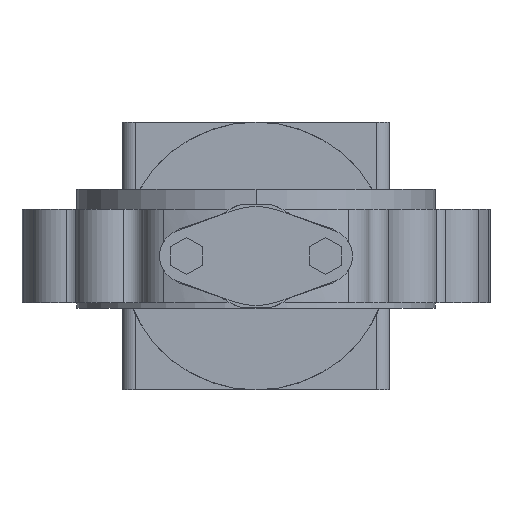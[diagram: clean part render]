
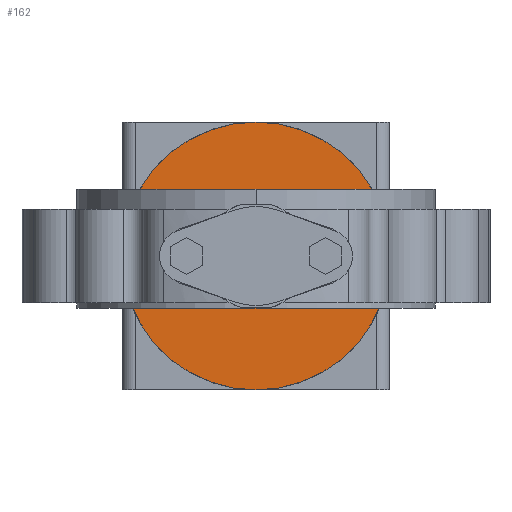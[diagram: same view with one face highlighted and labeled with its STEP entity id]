
A CAD part, front view. The second image highlights one B-rep face of the part: STEP entity #162.
In plain terms, the highlighted planar face has unit normal (0, -1, 0).
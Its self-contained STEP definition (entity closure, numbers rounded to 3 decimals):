
#162 = ADVANCED_FACE( '', ( #541, #542 ), #543, .T. );
#541 = FACE_OUTER_BOUND( '', #1153, .T. );
#542 = FACE_BOUND( '', #1154, .T. );
#543 = PLANE( '', #1155 );
#1153 = EDGE_LOOP( '', ( #2267, #2268 ) );
#1154 = EDGE_LOOP( '', ( #2269, #2270, #2271, #2272 ) );
#1155 = AXIS2_PLACEMENT_3D( '', #2273, #2274, #2275 );
#2267 = ORIENTED_EDGE( '', *, *, #4071, .F. );
#2268 = ORIENTED_EDGE( '', *, *, #4221, .F. );
#2269 = ORIENTED_EDGE( '', *, *, #4222, .T. );
#2270 = ORIENTED_EDGE( '', *, *, #4223, .T. );
#2271 = ORIENTED_EDGE( '', *, *, #4224, .T. );
#2272 = ORIENTED_EDGE( '', *, *, #4225, .T. );
#2273 = CARTESIAN_POINT( '', ( 59., 250., 0. ) );
#2274 = DIRECTION( '', ( 0., -1., 0. ) );
#2275 = DIRECTION( '', ( -1., 0., 0. ) );
#4071 = EDGE_CURVE( '', #4974, #4977, #4978, .T. );
#4221 = EDGE_CURVE( '', #4977, #4974, #5221, .T. );
#4222 = EDGE_CURVE( '', #5222, #5223, #5224, .T. );
#4223 = EDGE_CURVE( '', #5223, #5225, #5226, .T. );
#4224 = EDGE_CURVE( '', #5225, #5227, #5228, .T. );
#4225 = EDGE_CURVE( '', #5227, #5222, #5229, .T. );
#4974 = VERTEX_POINT( '', #6677 );
#4977 = VERTEX_POINT( '', #6681 );
#4978 = CIRCLE( '', #6682, 100. );
#5221 = CIRCLE( '', #7247, 100. );
#5222 = VERTEX_POINT( '', #7248 );
#5223 = VERTEX_POINT( '', #7249 );
#5224 = LINE( '', #7250, #7251 );
#5225 = VERTEX_POINT( '', #7252 );
#5226 = LINE( '', #7253, #7254 );
#5227 = VERTEX_POINT( '', #7255 );
#5228 = LINE( '', #7256, #7257 );
#5229 = LINE( '', #7258, #7259 );
#6677 = CARTESIAN_POINT( '', ( 100., 250., 0. ) );
#6681 = CARTESIAN_POINT( '', ( -100., 250., 0. ) );
#6682 = AXIS2_PLACEMENT_3D( '', #8648, #8649, #8650 );
#7247 = AXIS2_PLACEMENT_3D( '', #8928, #8929, #8930 );
#7248 = CARTESIAN_POINT( '', ( -49., 250., -35. ) );
#7249 = CARTESIAN_POINT( '', ( -49., 250., 35. ) );
#7250 = CARTESIAN_POINT( '', ( -49., 250., -35. ) );
#7251 = VECTOR( '', #8931, 1. );
#7252 = CARTESIAN_POINT( '', ( 49., 250., 35. ) );
#7253 = CARTESIAN_POINT( '', ( -49., 250., 35. ) );
#7254 = VECTOR( '', #8932, 1. );
#7255 = CARTESIAN_POINT( '', ( 49., 250., -35. ) );
#7256 = CARTESIAN_POINT( '', ( 49., 250., 35. ) );
#7257 = VECTOR( '', #8933, 1. );
#7258 = CARTESIAN_POINT( '', ( 49., 250., -35. ) );
#7259 = VECTOR( '', #8934, 1. );
#8648 = CARTESIAN_POINT( '', ( 0., 250., 0. ) );
#8649 = DIRECTION( '', ( 0., 1., 0. ) );
#8650 = DIRECTION( '', ( 1., 0., 0. ) );
#8928 = CARTESIAN_POINT( '', ( 0., 250., 0. ) );
#8929 = DIRECTION( '', ( 0., 1., 0. ) );
#8930 = DIRECTION( '', ( 1., 0., 0. ) );
#8931 = DIRECTION( '', ( 0., 0., 1. ) );
#8932 = DIRECTION( '', ( 1., 0., 0. ) );
#8933 = DIRECTION( '', ( 0., 0., -1. ) );
#8934 = DIRECTION( '', ( -1., 0., 0. ) );
